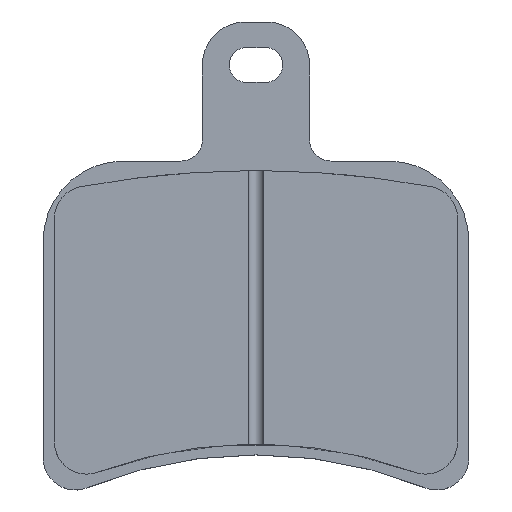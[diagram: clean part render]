
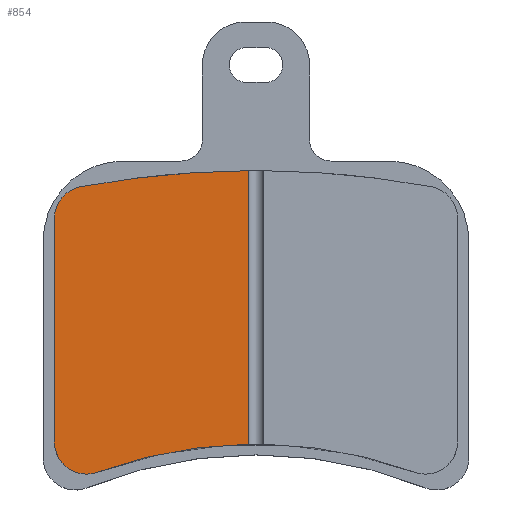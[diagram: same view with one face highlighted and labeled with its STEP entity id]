
A CAD part, top view. The second image highlights one B-rep face of the part: STEP entity #854.
In plain terms, the highlighted planar face has unit normal (0, 0, 1).
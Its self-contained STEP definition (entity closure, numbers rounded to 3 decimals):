
#4 = DIRECTION ( 'NONE',  ( 1., 0., 0. ) ) ;
#28 = ORIENTED_EDGE ( 'NONE', *, *, #95, .T. ) ;
#78 = CARTESIAN_POINT ( 'NONE',  ( -16.345, 67.003, 7. ) ) ;
#95 = EDGE_CURVE ( 'NONE', #565, #580, #476, .T. ) ;
#163 = DIRECTION ( 'NONE',  ( 0., -1., 0. ) ) ;
#165 = DIRECTION ( 'NONE',  ( 0., 0., 1. ) ) ;
#195 = CARTESIAN_POINT ( 'NONE',  ( 0., -21.5, 7. ) ) ;
#213 = AXIS2_PLACEMENT_3D ( 'NONE', #832, #165, #949 ) ;
#238 = CARTESIAN_POINT ( 'NONE',  ( -15.8, 64.053, 7. ) ) ;
#247 = CIRCLE ( 'NONE', #659, 90. ) ;
#295 = DIRECTION ( 'NONE',  ( -1., 0., 0. ) ) ;
#321 = EDGE_CURVE ( 'NONE', #1221, #596, #458, .T. ) ;
#349 = DIRECTION ( 'NONE',  ( 1., 0., 0. ) ) ;
#403 = ORIENTED_EDGE ( 'NONE', *, *, #953, .T. ) ;
#416 = CARTESIAN_POINT ( 'NONE',  ( 0., 0., 7. ) ) ;
#423 = CARTESIAN_POINT ( 'NONE',  ( -0.7, 68.497, 7. ) ) ;
#443 = VECTOR ( 'NONE', #572, 1000. ) ;
#458 = CIRCLE ( 'NONE', #213, 3. ) ;
#476 = LINE ( 'NONE', #1233, #443 ) ;
#499 = EDGE_CURVE ( 'NONE', #580, #1415, #247, .T. ) ;
#511 = ORIENTED_EDGE ( 'NONE', *, *, #694, .T. ) ;
#525 = DIRECTION ( 'NONE',  ( 1., 0., 0. ) ) ;
#546 = VERTEX_POINT ( 'NONE', #1091 ) ;
#550 = PLANE ( 'NONE',  #855 ) ;
#565 = VERTEX_POINT ( 'NONE', #874 ) ;
#572 = DIRECTION ( 'NONE',  ( 0., 1., 0. ) ) ;
#579 = CIRCLE ( 'NONE', #1370, 3. ) ;
#580 = VERTEX_POINT ( 'NONE', #423 ) ;
#594 = CIRCLE ( 'NONE', #707, 43. ) ;
#596 = VERTEX_POINT ( 'NONE', #1417 ) ;
#659 = AXIS2_PLACEMENT_3D ( 'NONE', #195, #979, #295 ) ;
#661 = DIRECTION ( 'NONE',  ( 0., 0., 1. ) ) ;
#694 = EDGE_CURVE ( 'NONE', #596, #565, #594, .T. ) ;
#707 = AXIS2_PLACEMENT_3D ( 'NONE', #416, #1192, #525 ) ;
#714 = CARTESIAN_POINT ( 'NONE',  ( -18.8, 64.053, 7. ) ) ;
#719 = FACE_OUTER_BOUND ( 'NONE', #976, .T. ) ;
#832 = CARTESIAN_POINT ( 'NONE',  ( -15.8, 43.201, 7. ) ) ;
#834 = CARTESIAN_POINT ( 'NONE',  ( -18.8, 43.201, 7. ) ) ;
#842 = ORIENTED_EDGE ( 'NONE', *, *, #1385, .T. ) ;
#854 = ADVANCED_FACE ( 'NONE', ( #719 ), #550, .T. ) ;
#855 = AXIS2_PLACEMENT_3D ( 'NONE', #1327, #661, #4 ) ;
#874 = CARTESIAN_POINT ( 'NONE',  ( -0.7, 42.994, 7. ) ) ;
#949 = DIRECTION ( 'NONE',  ( 1., 0., 0. ) ) ;
#953 = EDGE_CURVE ( 'NONE', #1415, #546, #579, .T. ) ;
#976 = EDGE_LOOP ( 'NONE', ( #28, #1361, #403, #842, #1279, #511 ) ) ;
#979 = DIRECTION ( 'NONE',  ( 0., 0., 1. ) ) ;
#981 = LINE ( 'NONE', #714, #1196 ) ;
#1027 = DIRECTION ( 'NONE',  ( 0., 0., 1. ) ) ;
#1091 = CARTESIAN_POINT ( 'NONE',  ( -18.8, 64.053, 7. ) ) ;
#1192 = DIRECTION ( 'NONE',  ( 0., 0., -1. ) ) ;
#1196 = VECTOR ( 'NONE', #163, 1000. ) ;
#1221 = VERTEX_POINT ( 'NONE', #834 ) ;
#1233 = CARTESIAN_POINT ( 'NONE',  ( -0.7, 38.726, 7. ) ) ;
#1279 = ORIENTED_EDGE ( 'NONE', *, *, #321, .T. ) ;
#1327 = CARTESIAN_POINT ( 'NONE',  ( -15.8, 64.053, 7. ) ) ;
#1361 = ORIENTED_EDGE ( 'NONE', *, *, #499, .T. ) ;
#1370 = AXIS2_PLACEMENT_3D ( 'NONE', #238, #1027, #349 ) ;
#1385 = EDGE_CURVE ( 'NONE', #546, #1221, #981, .T. ) ;
#1415 = VERTEX_POINT ( 'NONE', #78 ) ;
#1417 = CARTESIAN_POINT ( 'NONE',  ( -14.77, 40.384, 7. ) ) ;
